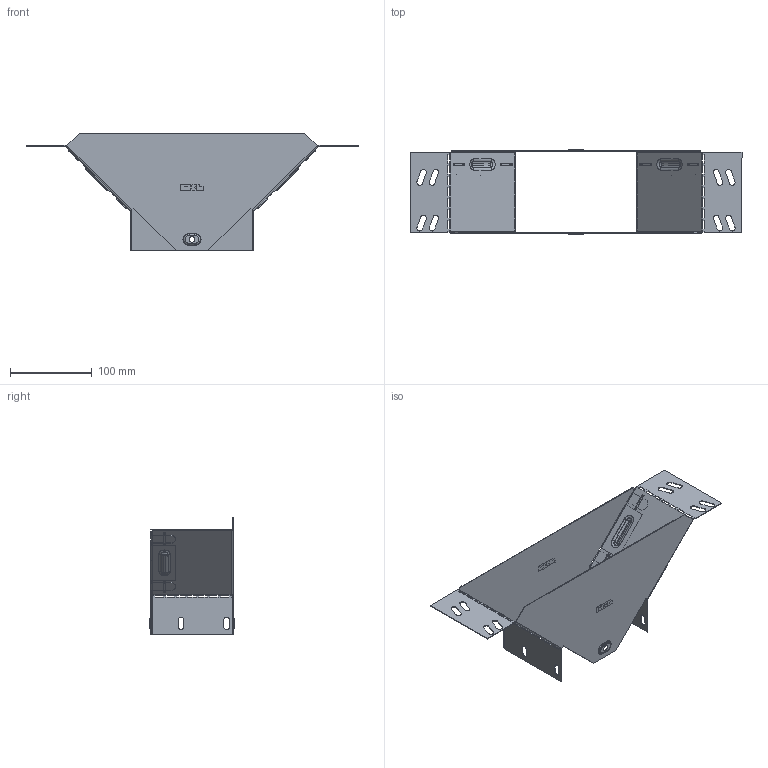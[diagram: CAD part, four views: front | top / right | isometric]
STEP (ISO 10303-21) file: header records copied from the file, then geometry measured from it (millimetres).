
FILE_DESCRIPTION (( 'STEP AP214' ), '1' );
FILE_NAME ('tn10015008_捘.STEP', '2019-06-10T08:01:30', ( '砐錪賧瘔蠈錪 Windows' ), ( '' ), 'SwSTEP 2.0', 'SolidWorks 2018', '' );
FILE_SCHEMA (( 'AUTOMOTIVE_DESIGN' ));
Length unit declared in the file: millimetre
Products named in the file (1): tn10015008_捘
Bounding box: 406.02 x 103.8 x 144 mm (x, y, z)
Volume: 77552.3 mm3; surface area: 197290.5 mm2
Topology: 2 solids, 2 shells, 698 faces, 1994 edges, 1260 vertices
Faces by surface type: plane 420, cylinder 212, torus 48, bspline 18
Entity records: 23565 total; most frequent: CARTESIAN_POINT 4911, ORIENTED_EDGE 3988, DIRECTION 3816, EDGE_CURVE 1994, VECTOR 1462, LINE 1462, VERTEX_POINT 1260, AXIS2_PLACEMENT_3D 1177
